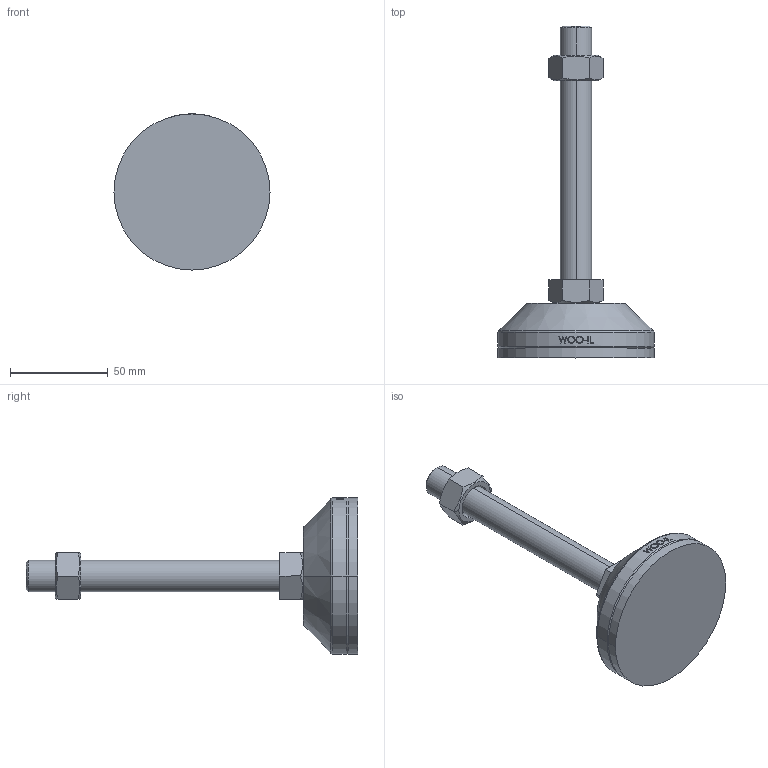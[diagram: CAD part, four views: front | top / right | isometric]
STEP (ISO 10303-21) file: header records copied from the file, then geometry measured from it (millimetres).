
FILE_DESCRIPTION (( 'STEP AP214' ), '1' );
FILE_NAME ('NHNR80-M16-130.step', '2021-01-25T06:21:33', ( '' ), ( '' ), 'SwSTEP 2.0', 'SolidWorks 2019', '' );
FILE_SCHEMA (( 'AUTOMOTIVE_DESIGN' ));
Length unit declared in the file: millimetre
Products named in the file (2): NHNR80-M16-130
Bounding box: 80 x 170 x 80 mm (x, y, z)
Volume: 151881.1 mm3; surface area: 35512.2 mm2
Topology: 4 solids, 4 shells, 105 faces, 239 edges, 152 vertices
Faces by surface type: plane 49, cylinder 18, bspline 16, cone 14, torus 8
Entity records: 4363 total; most frequent: CARTESIAN_POINT 2046, ORIENTED_EDGE 478, DIRECTION 429, EDGE_CURVE 239, AXIS2_PLACEMENT_3D 165, VERTEX_POINT 152, EDGE_LOOP 117, FACE_OUTER_BOUND 105
